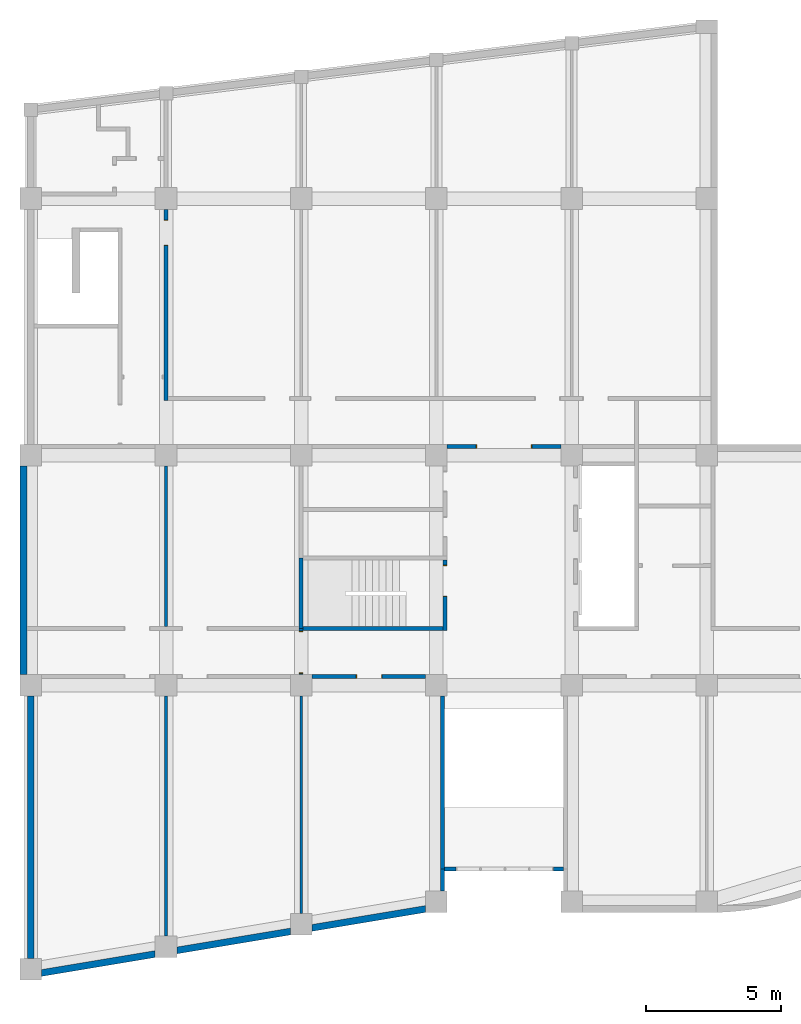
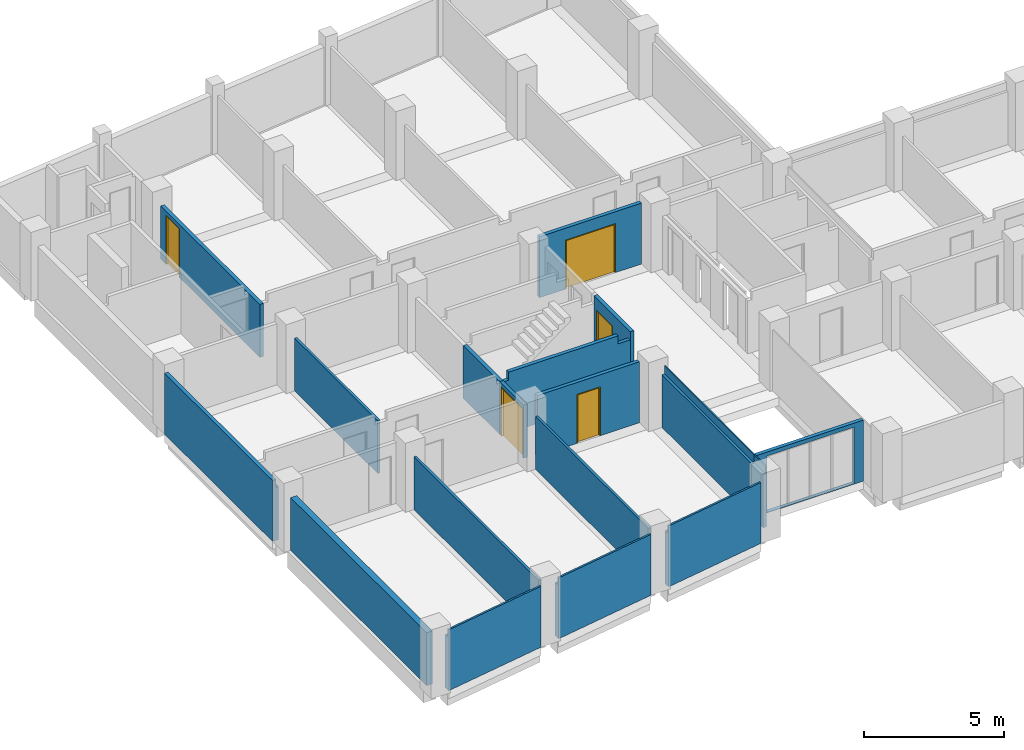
# One storey, part 1 of 7: 18 walls, 5 doors, 6 openings.
"""IFC2X3 building model written with IfcOpenShell, lengths in millimetres."""

from ifc_helpers import new_model, entity, si_unit, converted_unit, derived_unit, money_unit, direction, frame, origin_with_axes, place, context, subcontext, project, spatial, open_shell, faceted_brep, surface_model, source, transform, mapped, material, type_object, element, fill, save


model = new_model("IFC2X3")

# Units and contexts
model_context = context("Model", 3, precision=0.01, world=origin_with_axes(), true_north=direction((0.0, 1.0)))
body_context = subcontext(model_context, "Body", "Model", "MODEL_VIEW")
ifc_project = project(units=[si_unit("LENGTHUNIT", "METRE", prefix="MILLI"), si_unit("AREAUNIT", "SQUARE_METRE"), si_unit("VOLUMEUNIT", "CUBIC_METRE"), converted_unit("PLANEANGLEUNIT", "DEGREE", entity("IfcPlaneAngleMeasure", 0.0174532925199), si_unit("PLANEANGLEUNIT", "RADIAN"), dimensions=[0, 0, 0, 0, 0, 0, 0]), si_unit("SOLIDANGLEUNIT", "STERADIAN"), money_unit("JPY"), converted_unit("TIMEUNIT", "Year", entity("IfcTimeMeasure", 31556926.0), si_unit("TIMEUNIT", "SECOND"), dimensions=[0, 0, 1, 0, 0, 0, 0]), si_unit("MASSUNIT", "GRAM", prefix="KILO"), si_unit("THERMODYNAMICTEMPERATUREUNIT", "DEGREE_CELSIUS"), si_unit("LUMINOUSINTENSITYUNIT", "LUMEN"), si_unit("ENERGYUNIT", "JOULE", prefix="MEGA"), derived_unit("THERMALCONDUCTANCEUNIT", [(si_unit("POWERUNIT", "WATT"), 1), (si_unit("LENGTHUNIT", "METRE"), -1), (si_unit("THERMODYNAMICTEMPERATUREUNIT", "KELVIN"), -1)]), derived_unit("SPECIFICHEATCAPACITYUNIT", [(si_unit("ENERGYUNIT", "JOULE"), 1), (si_unit("MASSUNIT", "GRAM", prefix="KILO"), -1), (si_unit("THERMODYNAMICTEMPERATUREUNIT", "KELVIN"), -1)]), derived_unit("MASSDENSITYUNIT", [(si_unit("MASSUNIT", "GRAM", prefix="KILO"), 1), (si_unit("VOLUMEUNIT", "CUBIC_METRE"), -1)])], contexts=[model_context])

# Site, building, storey
site_placement = place(None, origin_with_axes())
site = spatial("IfcSite", under=ifc_project, at=site_placement, Name="サイト", CompositionType="ELEMENT")
building_placement = place(site_placement, origin_with_axes())
building = spatial("IfcBuilding", under=site, at=building_placement, Name="建築", CompositionType="ELEMENT")
storey_placement = place(building_placement, frame((0.0, 0.0, 3000.0), z_axis=(0.0, 0.0, 1.0), x_axis=(1.0, 0.0, 0.0)))
storey = spatial("IfcBuildingStorey", under=building, at=storey_placement, Name="2FL", CompositionType="ELEMENT", Elevation=3000.0)

# Wall
ifc_material_1 = material(Name="コンクリート")
wall_type_1 = type_object("IfcWallType", Name="コンクリート 150", PredefinedType="NOTDEFINED")
wall_1_placement = place(storey_placement, frame((15224.9999475, 324.999998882, 0.0), z_axis=(0.0, 0.0, 1.0), x_axis=(0.0, -1.0, 0.0)))
element("IfcWall", 1, at=wall_1_placement, inside=storey, type_object=wall_type_1, material=ifc_material_1, Name="W4", context=body_context, shape_type="Brep", body=[
    faceted_brep([(7124.99999888, 75.0, 0.0), (724.999998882, 75.0, 0.0), (724.999998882, 75.0, 2650.0), (7124.99999888, 75.0, 2650.0), (7124.99999888, -75.0, 0.0), (724.999998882, -75.0, 0.0), (724.999998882, 25.0000524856, 2300.0), (724.999998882, 25.0000524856, 2650.0), (724.999998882, -75.0, 2300.0), (7124.99999888, 25.0000524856, 2650.0), (7124.99999888, 25.0000524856, 2300.0), (7124.99999888, -75.0, 2300.0)], [[[0, 1, 2, 3]], [[4, 5, 1, 0]], [[6, 7, 2, 1, 5, 8]], [[3, 2, 7, 9]], [[3, 9, 10, 11, 4, 0]], [[11, 8, 5, 4]], [[9, 7, 6, 10]], [[10, 6, 8, 11]]]),
])

# Wall, opening, door
wall_2_placement = place(storey_placement, frame((15324.9999955, 2100.0, 0.0), z_axis=(0.0, 0.0, 1.0), x_axis=(0.0, 1.0, 0.0)))
wall_2 = element("IfcWall", 2, at=wall_2_placement, inside=storey, type_object=wall_type_1, material=ifc_material_1, Name="W4", context=body_context, shape_type="Brep", body=[
    faceted_brep([(1180.0, -75.0, 0.0), (1180.0, -75.0, 2130.0), (2340.0, -75.0, 2130.0), (2340.0, -75.0, 0.0), (2525.0, -75.0, 0.0), (2525.0, -75.0, 2650.0), (-75.0, -75.0, 2650.0), (-75.0, -75.0, 0.0), (1180.0, 75.0, 0.0), (1180.0, 75.0, 2130.0), (2340.0, 75.0, 2130.0), (2340.0, 75.0, 0.0), (2525.0, 75.0, 0.0), (2525.0, 75.0, 2650.0), (-75.0, 75.0, 2650.0), (-75.0, 75.0, 0.0)], [[[0, 1, 2, 3, 4, 5, 6, 7]], [[1, 0, 8, 9]], [[2, 1, 9, 10]], [[3, 2, 10, 11]], [[3, 11, 12, 4]], [[12, 13, 5, 4]], [[14, 6, 5, 13]], [[7, 6, 14, 15]], [[8, 0, 7, 15]], [[9, 8, 15, 14, 13, 12, 11, 10]]]),
])
opening_1_placement = place(wall_2_placement, frame((1760.0, 0.0, 0.0), z_axis=(0.0, 0.0, 1.0), x_axis=(1.0, 0.0, 0.0)))
opening_1 = element("IfcOpeningElement", 3, at=opening_1_placement, cuts=wall_2, Name="FSD2", context=body_context, shape_type="Brep", body=[
    faceted_brep([(-580.0, -160.0, 0.0), (-580.0, -160.0, 2130.0), (-580.0, 160.0, 2130.0), (-580.0, 160.0, 0.0), (580.0, -160.0, 0.0), (580.0, -160.0, 2130.0), (580.0, 160.0, 2130.0), (580.0, 160.0, 0.0)], [[[0, 1, 2, 3]], [[0, 4, 5, 1]], [[1, 5, 6, 2]], [[3, 2, 6, 7]], [[4, 0, 3, 7]], [[5, 4, 7, 6]]]),
])
door_style_1 = type_object("IfcDoorStyle", Name="片開き戸", ConstructionType="NOTDEFINED", OperationType="NOTDEFINED", ParameterTakesPrecedence=False, Sizeable=False)
shared_shape_1 = source(origin_with_axes(), body_context, "Body", "SurfaceModel", [
    surface_model("IfcShellBasedSurfaceModel", [(-550.0, -85.0, 0.0), (-550.0, -85.0, 2100.0), (550.0, -85.0, 2100.0), (550.0, -85.0, 0.0)], [open_shell([[[0, 1, 2, 3]]])]),
    surface_model("IfcShellBasedSurfaceModel", [(-580.0, -10.0, 0.0), (-580.0, -10.0, 2130.0), (580.0, -10.0, 2130.0), (580.0, -10.0, 0.0), (550.0, -10.0, 0.0), (550.0, -10.0, 2100.0), (-550.0, -10.0, 2100.0), (-550.0, -10.0, 0.0)], [open_shell([[[0, 1, 2, 3, 4, 5, 6, 7]]])]),
    surface_model("IfcShellBasedSurfaceModel", [(-580.0, -160.0, 0.0), (-580.0, -160.0, 2130.0), (580.0, -160.0, 2130.0), (580.0, -160.0, 0.0), (550.0, -160.0, 0.0), (550.0, -160.0, 2100.0), (-550.0, -160.0, 2100.0), (-550.0, -160.0, 0.0)], [open_shell([[[0, 1, 2, 3, 4, 5, 6, 7]]])]),
    surface_model("IfcShellBasedSurfaceModel", [(-550.0, -10.0, 0.0), (-550.0, -10.0, 2100.0), (-550.0, -160.0, 2100.0), (-550.0, -160.0, 0.0), (550.0, -10.0, 2100.0), (550.0, -160.0, 2100.0), (-580.0, -10.0, 0.0), (-580.0, -160.0, 0.0), (550.0, -10.0, 0.0), (550.0, -160.0, 0.0), (-580.0, -10.0, 2130.0), (-580.0, -160.0, 2130.0), (580.0, -10.0, 0.0), (580.0, -160.0, 0.0), (580.0, -10.0, 2130.0), (580.0, -160.0, 2130.0)], [open_shell([[[0, 1, 2, 3]], [[1, 4, 5, 2]], [[6, 0, 3, 7]], [[4, 8, 9, 5]], [[10, 6, 7, 11]], [[8, 12, 13, 9]], [[14, 10, 11, 15]], [[12, 14, 15, 13]]])]),
])
door_1_placement = place(opening_1_placement, frame((-550.0, 0.0, 0.0), z_axis=(0.0, 0.0, 1.0), x_axis=(1.0, 0.0, 0.0)))
door_1 = element("IfcDoor", 4, at=door_1_placement, inside=storey, type_object=door_style_1, Name="FSD2", OverallHeight=2165.0, OverallWidth=1230.0, context=body_context, shape_type="MappedRepresentation", body=[
    mapped(shared_shape_1, transform((550.0, 85.0, 0.0))),
])
fill(opening_1, door_1)

# Walls
wall_3_placement = place(storey_placement, frame((10000.0, 4700.0, 0.0), z_axis=(0.0, 0.0, 1.0), x_axis=(0.0, -1.0, 0.0)))
element("IfcWall", 5, at=wall_3_placement, inside=storey, type_object=wall_type_1, material=ifc_material_1, Name="W2", context=body_context, shape_type="Brep", body=[
    faceted_brep([(0.0, -75.0, 0.0), (0.0, -75.0, 2300.0), (0.0, 75.0, 2300.0), (0.0, 75.0, 0.0), (2600.0, -75.0, 0.0), (2600.0, -75.0, 2300.0), (2600.0, 75.0, 2300.0), (2600.0, 75.0, 0.0)], [[[0, 1, 2, 3]], [[4, 5, 1, 0]], [[5, 6, 2, 1]], [[3, 2, 6, 7]], [[3, 7, 4, 0]], [[7, 6, 5, 4]]]),
])
wall_4_placement = place(storey_placement, frame((15224.9999475, -6800.0, 0.0), z_axis=(0.0, 0.0, 1.0), x_axis=(0.0, -1.0, 0.0)))
element("IfcWall", 6, at=wall_4_placement, inside=storey, type_object=wall_type_1, material=ifc_material_1, Name="W4", context=body_context, shape_type="Brep", body=[
    faceted_brep([(0.0, 25.0000524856, 2650.0), (800.0, 25.0000524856, 2650.0), (800.0, 75.0, 2650.0), (0.0, 75.0, 2650.0), (0.0, 25.0000524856, 2300.0), (800.0, 25.0000524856, 2300.0), (800.0, -75.0, 0.0), (800.0, 75.0, 0.0), (800.0, -75.0, 2300.0), (0.0, 75.0, 0.0), (0.0, -75.0, 0.0), (0.0, -75.0, 2300.0)], [[[0, 1, 2, 3]], [[4, 5, 1, 0]], [[6, 7, 2, 1, 5, 8]], [[3, 2, 7, 9]], [[9, 10, 11, 4, 0, 3]], [[11, 8, 5, 4]], [[9, 7, 6, 10]], [[10, 6, 8, 11]]]),
])

# Wall, opening, door
wall_5_placement = place(storey_placement, frame((10000.0, 324.999998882, 0.0), z_axis=(0.0, 0.0, 1.0), x_axis=(1.0, 0.0, 0.0)))
wall_5 = element("IfcWall", 7, at=wall_5_placement, inside=storey, type_object=wall_type_1, material=ifc_material_1, Name="W4", context=body_context, shape_type="Brep", body=[
    faceted_brep([(2035.0, 75.0000011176, 2130.0), (2035.0, 75.0000011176, 0.0), (400.0, 75.0000011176, 0.0), (400.0, 75.0000011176, 2650.0), (4600.0, 75.0000011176, 2650.0), (4600.0, 75.0000011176, 0.0), (2995.0, 75.0000011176, 0.0), (2995.0, 75.0000011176, 2130.0), (2035.0, -74.9999988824, 2130.0), (2035.0, -75.0, 0.0), (400.0, -75.0, 0.0), (400.0, -74.9999988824, 2650.0), (4600.0, -74.9999988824, 2650.0), (4600.0, -75.0, 0.0), (2995.0, -75.0, 0.0), (2995.0, -74.9999988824, 2130.0)], [[[0, 1, 2, 3, 4, 5, 6, 7]], [[1, 0, 8, 9]], [[1, 9, 10, 2]], [[11, 3, 2, 10]], [[3, 11, 12, 4]], [[5, 4, 12, 13]], [[14, 6, 5, 13]], [[7, 6, 14, 15]], [[0, 7, 15, 8]], [[15, 14, 13, 12, 11, 10, 9, 8]]]),
])
opening_2_placement = place(wall_5_placement, frame((2515.0, 0.0, 0.0), z_axis=(0.0, 0.0, 1.0), x_axis=(1.0, 0.0, 0.0)))
opening_2 = element("IfcOpeningElement", 8, at=opening_2_placement, cuts=wall_5, Name="SD4", context=body_context, shape_type="Brep", body=[
    faceted_brep([(480.0, 160.0, 0.0), (480.0, 160.0, 2130.0), (480.0, -160.0, 2130.0), (480.0, -160.0, 0.0), (-480.0, 160.0, 0.0), (-480.0, 160.0, 2130.0), (-480.0, -160.0, 2130.0), (-480.0, -160.0, 0.0)], [[[0, 1, 2, 3]], [[0, 4, 5, 1]], [[1, 5, 6, 2]], [[3, 2, 6, 7]], [[4, 0, 3, 7]], [[5, 4, 7, 6]]]),
])
shared_shape_2 = source(origin_with_axes(), body_context, "Body", "SurfaceModel", [
    surface_model("IfcShellBasedSurfaceModel", [(-450.0, -85.0, 0.0), (-450.0, -85.0, 2100.0), (450.0, -85.0, 2100.0), (450.0, -85.0, 0.0)], [open_shell([[[0, 1, 2, 3]]])]),
    surface_model("IfcShellBasedSurfaceModel", [(-480.0, -10.0, 0.0), (-480.0, -10.0, 2130.0), (480.0, -10.0, 2130.0), (480.0, -10.0, 0.0), (450.0, -10.0, 0.0), (450.0, -10.0, 2100.0), (-450.0, -10.0, 2100.0), (-450.0, -10.0, 0.0)], [open_shell([[[0, 1, 2, 3, 4, 5, 6, 7]]])]),
    surface_model("IfcShellBasedSurfaceModel", [(-480.0, -160.0, 0.0), (-480.0, -160.0, 2130.0), (480.0, -160.0, 2130.0), (480.0, -160.0, 0.0), (450.0, -160.0, 0.0), (450.0, -160.0, 2100.0), (-450.0, -160.0, 2100.0), (-450.0, -160.0, 0.0)], [open_shell([[[0, 1, 2, 3, 4, 5, 6, 7]]])]),
    surface_model("IfcShellBasedSurfaceModel", [(-450.0, -10.0, 0.0), (-450.0, -10.0, 2100.0), (-450.0, -160.0, 2100.0), (-450.0, -160.0, 0.0), (450.0, -10.0, 2100.0), (450.0, -160.0, 2100.0), (-480.0, -10.0, 0.0), (-480.0, -160.0, 0.0), (450.0, -10.0, 0.0), (450.0, -160.0, 0.0), (-480.0, -10.0, 2130.0), (-480.0, -160.0, 2130.0), (480.0, -10.0, 0.0), (480.0, -160.0, 0.0), (480.0, -10.0, 2130.0), (480.0, -160.0, 2130.0)], [open_shell([[[0, 1, 2, 3]], [[1, 4, 5, 2]], [[6, 0, 3, 7]], [[4, 8, 9, 5]], [[10, 6, 7, 11]], [[8, 12, 13, 9]], [[14, 10, 11, 15]], [[12, 14, 15, 13]]])]),
])
door_2_placement = place(opening_2_placement, frame((450.0, 0.0, 0.0), z_axis=(0.0, 0.0, 1.0), x_axis=(-1.0, 0.0, 0.0)))
door_2 = element("IfcDoor", 9, at=door_2_placement, inside=storey, type_object=door_style_1, Name="SD4", OverallHeight=2165.0, OverallWidth=1030.0, context=body_context, shape_type="MappedRepresentation", body=[
    mapped(shared_shape_2, transform((450.0, 85.0, 0.0))),
])
fill(opening_2, door_2)

wall_6_placement = place(storey_placement, frame((5000.0, 18000.0, 0.0), z_axis=(0.0, 0.0, 1.0), x_axis=(0.0, -1.0, 0.0)))
wall_6 = element("IfcWall", 10, at=wall_6_placement, inside=storey, type_object=wall_type_1, material=ifc_material_1, Name="W2", context=body_context, shape_type="Brep", body=[
    faceted_brep([(1745.00003534, 75.0, 0.0), (1745.00003534, 75.0, 2130.0), (785.00003534, 75.0, 2130.0), (785.00003534, 75.0, 0.0), (400.0, 75.0, 0.0), (400.0, 75.0, 2300.0), (7475.0, 75.0, 2300.0), (7475.0, 75.0, 0.0), (1745.00003534, -75.0, 0.0), (1745.00003534, -75.0, 2130.0), (785.00003534, -75.0, 2130.0), (785.00003534, -75.0, 0.0), (400.0, -75.0, 0.0), (400.0, -75.0, 2300.0), (7475.0, -75.0, 2300.0), (7475.0, -75.0, 0.0)], [[[0, 1, 2, 3, 4, 5, 6, 7]], [[1, 0, 8, 9]], [[2, 1, 9, 10]], [[3, 2, 10, 11]], [[3, 11, 12, 4]], [[13, 5, 4, 12]], [[5, 13, 14, 6]], [[7, 6, 14, 15]], [[8, 0, 7, 15]], [[9, 8, 15, 14, 13, 12, 11, 10]]]),
])
opening_3_placement = place(wall_6_placement, frame((1265.00003534, 0.0, 0.0), z_axis=(0.0, 0.0, 1.0), x_axis=(1.0, 0.0, 0.0)))
opening_3 = element("IfcOpeningElement", 11, at=opening_3_placement, cuts=wall_6, Name="SD3", context=body_context, shape_type="Brep", body=[
    faceted_brep([(480.0, 160.0, 0.0), (480.0, 160.0, 2130.0), (480.0, -160.0, 2130.0), (480.0, -160.0, 0.0), (-480.0, 160.0, 0.0), (-480.0, 160.0, 2130.0), (-480.0, -160.0, 2130.0), (-480.0, -160.0, 0.0)], [[[0, 1, 2, 3]], [[0, 4, 5, 1]], [[1, 5, 6, 2]], [[3, 2, 6, 7]], [[4, 0, 3, 7]], [[5, 4, 7, 6]]]),
])
shared_shape_3 = source(origin_with_axes(), body_context, "Body", "SurfaceModel", [
    surface_model("IfcShellBasedSurfaceModel", [(-450.0, 85.0, 0.0), (-450.0, 85.0, 2100.0), (450.0, 85.0, 2100.0), (450.0, 85.0, 0.0)], [open_shell([[[0, 1, 2, 3]]])]),
    surface_model("IfcShellBasedSurfaceModel", [(-480.0, 160.0, 0.0), (-480.0, 160.0, 2130.0), (480.0, 160.0, 2130.0), (480.0, 160.0, 0.0), (450.0, 160.0, 0.0), (450.0, 160.0, 2100.0), (-450.0, 160.0, 2100.0), (-450.0, 160.0, 0.0)], [open_shell([[[0, 1, 2, 3, 4, 5, 6, 7]]])]),
    surface_model("IfcShellBasedSurfaceModel", [(-480.0, 10.0, 0.0), (-480.0, 10.0, 2130.0), (480.0, 10.0, 2130.0), (480.0, 10.0, 0.0), (450.0, 10.0, 0.0), (450.0, 10.0, 2100.0), (-450.0, 10.0, 2100.0), (-450.0, 10.0, 0.0)], [open_shell([[[0, 1, 2, 3, 4, 5, 6, 7]]])]),
    surface_model("IfcShellBasedSurfaceModel", [(-450.0, 160.0, 0.0), (-450.0, 160.0, 2100.0), (-450.0, 10.0, 2100.0), (-450.0, 10.0, 0.0), (450.0, 160.0, 2100.0), (450.0, 10.0, 2100.0), (-480.0, 160.0, 0.0), (-480.0, 10.0, 0.0), (450.0, 160.0, 0.0), (450.0, 10.0, 0.0), (-480.0, 160.0, 2130.0), (-480.0, 10.0, 2130.0), (480.0, 160.0, 0.0), (480.0, 10.0, 0.0), (480.0, 160.0, 2130.0), (480.0, 10.0, 2130.0)], [open_shell([[[0, 1, 2, 3]], [[1, 4, 5, 2]], [[6, 0, 3, 7]], [[4, 8, 9, 5]], [[10, 6, 7, 11]], [[8, 12, 13, 9]], [[14, 10, 11, 15]], [[12, 14, 15, 13]]])]),
])
door_3_placement = place(opening_3_placement, frame((450.0, 0.0, 0.0), z_axis=(0.0, 0.0, 1.0), x_axis=(-1.0, 0.0, 0.0)))
door_3 = element("IfcDoor", 12, at=door_3_placement, inside=storey, type_object=door_style_1, Name="SD3", OverallHeight=2165.0, OverallWidth=1030.0, context=body_context, shape_type="MappedRepresentation", body=[
    mapped(shared_shape_3, transform((450.0, -85.0, 0.0))),
])
fill(opening_3, door_3)

wall_7_placement = place(storey_placement, frame((20000.0, 8825.000045, 0.0), z_axis=(0.0, 0.0, 1.0), x_axis=(-1.0, 0.0, 0.0)))
wall_7 = element("IfcWall", 13, at=wall_7_placement, inside=storey, type_object=wall_type_1, material=ifc_material_1, Name="W7", context=body_context, shape_type="Brep", body=[
    faceted_brep([(3530.0, -74.999955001, 2130.0), (3530.0, -74.999955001, 0.0), (4600.0, -74.999955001, 0.0), (4600.0, -74.999955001, 2650.0), (400.0, -74.999955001, 2650.0), (400.0, -74.999955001, 0.0), (1470.0, -74.999955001, 0.0), (1470.0, -74.999955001, 2130.0), (3530.0, 75.0, 2130.0), (3530.0, 75.0, 0.0), (4600.0, 75.0, 0.0), (4600.0, 75.0, 2650.0), (400.0, 75.0, 2650.0), (400.0, 75.0, 0.0), (1470.0, 75.0, 0.0), (1470.0, 75.0, 2130.0)], [[[0, 1, 2, 3, 4, 5, 6, 7]], [[1, 0, 8, 9]], [[1, 9, 10, 2]], [[11, 3, 2, 10]], [[12, 4, 3, 11]], [[5, 4, 12, 13]], [[14, 6, 5, 13]], [[7, 6, 14, 15]], [[0, 7, 15, 8]], [[15, 14, 13, 12, 11, 10, 9, 8]]]),
])
opening_4_placement = place(wall_7_placement, frame((2500.0, 0.0, 0.0), z_axis=(0.0, 0.0, 1.0), x_axis=(1.0, 0.0, 0.0)))
opening_4 = element("IfcOpeningElement", 14, at=opening_4_placement, cuts=wall_7, Name="SD4", context=body_context, shape_type="Brep", body=[
    faceted_brep([(-1030.0, -160.0, 0.0), (-1030.0, -160.0, 2130.0), (-1030.0, 160.0, 2130.0), (-1030.0, 160.0, 0.0), (1030.0, -160.0, 0.0), (1030.0, -160.0, 2130.0), (1030.0, 160.0, 2130.0), (1030.0, 160.0, 0.0)], [[[0, 1, 2, 3]], [[0, 4, 5, 1]], [[1, 5, 6, 2]], [[3, 2, 6, 7]], [[4, 0, 3, 7]], [[5, 4, 7, 6]]]),
])
door_style_2 = type_object("IfcDoorStyle", Name="両開き戸", ConstructionType="NOTDEFINED", OperationType="NOTDEFINED", ParameterTakesPrecedence=False, Sizeable=False)
shared_shape_4 = source(origin_with_axes(), body_context, "Body", "SurfaceModel", [
    surface_model("IfcShellBasedSurfaceModel", [(0.0, -85.0, 0.0), (0.0, -85.0, 2100.0), (1000.0, -85.0, 2100.0), (1000.0, -85.0, 0.0)], [open_shell([[[0, 1, 2, 3]]])]),
    surface_model("IfcShellBasedSurfaceModel", [(0.0, -85.0, 0.0), (-1000.0, -85.0, 0.0), (-1000.0, -85.0, 2100.0), (0.0, -85.0, 2100.0)], [open_shell([[[0, 1, 2, 3]]])]),
    surface_model("IfcShellBasedSurfaceModel", [(-1030.0, -10.0, 0.0), (-1030.0, -10.0, 2130.0), (1030.0, -10.0, 2130.0), (1030.0, -10.0, 0.0), (1000.0, -10.0, 0.0), (1000.0, -10.0, 2100.0), (-1000.0, -10.0, 2100.0), (-1000.0, -10.0, 0.0)], [open_shell([[[0, 1, 2, 3, 4, 5, 6, 7]]])]),
    surface_model("IfcShellBasedSurfaceModel", [(-1030.0, -160.0, 0.0), (-1030.0, -160.0, 2130.0), (1030.0, -160.0, 2130.0), (1030.0, -160.0, 0.0), (1000.0, -160.0, 0.0), (1000.0, -160.0, 2100.0), (-1000.0, -160.0, 2100.0), (-1000.0, -160.0, 0.0)], [open_shell([[[0, 1, 2, 3, 4, 5, 6, 7]]])]),
    surface_model("IfcShellBasedSurfaceModel", [(-1000.0, -10.0, 0.0), (-1000.0, -10.0, 2100.0), (-1000.0, -160.0, 2100.0), (-1000.0, -160.0, 0.0), (1000.0, -10.0, 2100.0), (1000.0, -160.0, 2100.0), (-1030.0, -10.0, 0.0), (-1030.0, -160.0, 0.0), (1000.0, -10.0, 0.0), (1000.0, -160.0, 0.0), (-1030.0, -10.0, 2130.0), (-1030.0, -160.0, 2130.0), (1030.0, -10.0, 0.0), (1030.0, -160.0, 0.0), (1030.0, -10.0, 2130.0), (1030.0, -160.0, 2130.0)], [open_shell([[[0, 1, 2, 3]], [[1, 4, 5, 2]], [[6, 0, 3, 7]], [[4, 8, 9, 5]], [[10, 6, 7, 11]], [[8, 12, 13, 9]], [[14, 10, 11, 15]], [[12, 14, 15, 13]]])]),
])
door_4_placement = place(opening_4_placement, frame((-1000.0, 0.0, 0.0), z_axis=(0.0, 0.0, 1.0), x_axis=(1.0, 0.0, 0.0)))
door_4 = element("IfcDoor", 15, at=door_4_placement, inside=storey, type_object=door_style_2, Name="SD4", OverallHeight=2165.0, OverallWidth=2130.0, context=body_context, shape_type="MappedRepresentation", body=[
    mapped(shared_shape_4, transform((1000.0, 85.0, 0.0))),
])
fill(opening_4, door_4)

# Wall, opening
wall_8_placement = place(storey_placement, frame((19775.0000519, -6800.0, 0.0), z_axis=(0.0, 0.0, 1.0), x_axis=(-1.0, 0.0, 0.0)))
wall_8 = element("IfcWall", 16, at=wall_8_placement, inside=storey, type_object=wall_type_1, material=ifc_material_1, Name="W6", context=body_context, shape_type="Brep", body=[
    faceted_brep([(75.0, 75.0, 0.0), (75.0, 75.0, 2650.0), (4475.0001044, 75.0, 2650.0), (4475.0001044, 75.0, 0.0), (4045.0000522, 75.0, 20.0), (4045.0000522, 75.0, 2480.0), (445.0000522, 75.0, 2480.0), (445.0000522, 75.0, 20.0), (75.0, 0.0, 0.0), (75.0, 0.0, 2650.0), (75.0, -75.0, 2650.0), (4475.0001044, -75.0, 2650.0), (4475.0001044, 0.0, 2650.0), (4475.0001044, 0.0, 0.0), (4475.0001044, -75.0, 0.0), (75.0, -75.0, 0.0), (4045.0000522, -75.0, 20.0), (4045.0000522, -75.0, 2480.0), (445.0000522, -75.0, 2480.0), (445.0000522, -75.0, 20.0)], [[[0, 1, 2, 3], [4, 5, 6, 7]], [[8, 9, 1, 0]], [[10, 11, 12, 2, 1, 9]], [[3, 2, 12, 13]], [[8, 0, 3, 13, 14, 15]], [[16, 17, 5, 4]], [[17, 18, 6, 5]], [[18, 19, 7, 6]], [[19, 16, 4, 7]], [[15, 10, 9, 8]], [[14, 11, 10, 15], [16, 19, 18, 17]], [[13, 12, 11, 14]]]),
])
opening_5_placement = place(wall_8_placement, frame((2245.0000522, 0.0, 50.0), z_axis=(0.0, 0.0, 1.0), x_axis=(1.0, 0.0, 0.0)))
element("IfcOpeningElement", 17, at=opening_5_placement, cuts=wall_8, Name="AW1", context=body_context, shape_type="Brep", body=[
    faceted_brep([(-1800.0, -195.0, -30.0), (-1800.0, -195.0, 2430.0), (-1800.0, 195.0, 2430.0), (-1800.0, 195.0, -30.0), (1800.0, -195.0, -30.0), (1800.0, -195.0, 2430.0), (1800.0, 195.0, 2430.0), (1800.0, 195.0, -30.0)], [[[0, 1, 2, 3]], [[0, 4, 5, 1]], [[1, 5, 6, 2]], [[3, 2, 6, 7]], [[4, 0, 3, 7]], [[5, 4, 7, 6]]]),
])

# Wall, opening, door
wall_9_placement = place(storey_placement, frame((10000.0, 324.999998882, 0.0), z_axis=(0.0, 0.0, 1.0), x_axis=(0.0, 1.0, 0.0)))
wall_9 = element("IfcWall", 18, at=wall_9_placement, inside=storey, type_object=wall_type_1, material=ifc_material_1, Name="W4", context=body_context, shape_type="Brep", body=[
    faceted_brep([(115.000001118, -75.0, 0.0), (115.000001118, -75.0, 2130.0), (1675.00000112, -75.0, 2130.0), (1675.00000112, -75.0, 0.0), (1775.00000112, -75.0, 0.0), (1775.00000112, -75.0, 2300.0), (75.0, -75.0, 2300.0), (75.0, -75.0, 0.0), (115.000001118, 75.0, 0.0), (115.000001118, 75.0, 2130.0), (1675.00000112, 75.0, 2130.0), (1675.00000112, 75.0, 0.0), (1775.00000112, 75.0, 0.0), (1775.00000112, 75.0, 2300.0), (75.0, 75.0, 2300.0), (75.0, 75.0, 0.0)], [[[0, 1, 2, 3, 4, 5, 6, 7]], [[1, 0, 8, 9]], [[2, 1, 9, 10]], [[3, 2, 10, 11]], [[3, 11, 12, 4]], [[12, 13, 5, 4]], [[14, 6, 5, 13]], [[7, 6, 14, 15]], [[8, 0, 7, 15]], [[9, 8, 15, 14, 13, 12, 11, 10]]]),
])
opening_6_placement = place(wall_9_placement, frame((895.000001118, 0.0, 0.0), z_axis=(0.0, 0.0, 1.0), x_axis=(1.0, 0.0, 0.0)))
opening_6 = element("IfcOpeningElement", 19, at=opening_6_placement, cuts=wall_9, Name="SD3", context=body_context, shape_type="Brep", body=[
    faceted_brep([(-780.0, -160.0, 0.0), (-780.0, -160.0, 2130.0), (-780.0, 160.0, 2130.0), (-780.0, 160.0, 0.0), (780.0, -160.0, 0.0), (780.0, -160.0, 2130.0), (780.0, 160.0, 2130.0), (780.0, 160.0, 0.0)], [[[0, 1, 2, 3]], [[0, 4, 5, 1]], [[1, 5, 6, 2]], [[3, 2, 6, 7]], [[4, 0, 3, 7]], [[5, 4, 7, 6]]]),
])
door_style_3 = type_object("IfcDoorStyle", Name="親子開き戸", ConstructionType="NOTDEFINED", OperationType="NOTDEFINED", ParameterTakesPrecedence=False, Sizeable=False)
shared_shape_5 = source(origin_with_axes(), body_context, "Body", "SurfaceModel", [
    surface_model("IfcShellBasedSurfaceModel", [(150.0, -85.0, 0.0), (-750.0, -85.0, 0.0), (-750.0, -85.0, 2100.0), (150.0, -85.0, 2100.0)], [open_shell([[[0, 1, 2, 3]]])]),
    surface_model("IfcShellBasedSurfaceModel", [(150.0, -85.0, 0.0), (150.0, -85.0, 2100.0), (750.0, -85.0, 2100.0), (750.0, -85.0, 0.0)], [open_shell([[[0, 1, 2, 3]]])]),
    surface_model("IfcShellBasedSurfaceModel", [(780.0, -10.0, 0.0), (750.0, -10.0, 0.0), (750.0, -10.0, 2100.0), (-750.0, -10.0, 2100.0), (-750.0, -10.0, 0.0), (-780.0, -10.0, 0.0), (-780.0, -10.0, 2130.0), (780.0, -10.0, 2130.0)], [open_shell([[[0, 1, 2, 3, 4, 5, 6, 7]]])]),
    surface_model("IfcShellBasedSurfaceModel", [(780.0, -160.0, 0.0), (750.0, -160.0, 0.0), (750.0, -160.0, 2100.0), (-750.0, -160.0, 2100.0), (-750.0, -160.0, 0.0), (-780.0, -160.0, 0.0), (-780.0, -160.0, 2130.0), (780.0, -160.0, 2130.0)], [open_shell([[[0, 1, 2, 3, 4, 5, 6, 7]]])]),
    surface_model("IfcShellBasedSurfaceModel", [(750.0, -10.0, 0.0), (750.0, -160.0, 0.0), (750.0, -160.0, 2100.0), (750.0, -10.0, 2100.0), (780.0, -10.0, 0.0), (780.0, -160.0, 0.0), (-750.0, -160.0, 2100.0), (-750.0, -10.0, 2100.0), (780.0, -10.0, 2130.0), (780.0, -160.0, 2130.0), (-750.0, -160.0, 0.0), (-750.0, -10.0, 0.0), (-780.0, -10.0, 2130.0), (-780.0, -160.0, 2130.0), (-780.0, -160.0, 0.0), (-780.0, -10.0, 0.0)], [open_shell([[[0, 1, 2, 3]], [[4, 5, 1, 0]], [[3, 2, 6, 7]], [[8, 9, 5, 4]], [[7, 6, 10, 11]], [[12, 13, 9, 8]], [[11, 10, 14, 15]], [[15, 14, 13, 12]]])]),
])
door_5_placement = place(opening_6_placement, frame((750.0, 0.0, 0.0), z_axis=(0.0, 0.0, 1.0), x_axis=(-1.0, 0.0, 0.0)))
door_5 = element("IfcDoor", 20, at=door_5_placement, inside=storey, type_object=door_style_3, Name="SD3", OverallHeight=2165.0, OverallWidth=1630.0, context=body_context, shape_type="MappedRepresentation", body=[
    mapped(shared_shape_5, transform((750.0, 85.0, 0.0))),
])
fill(opening_6, door_5)

# Walls
wall_10_placement = place(storey_placement, frame((10000.0, 2100.0, 0.0), z_axis=(0.0, 0.0, 1.0), x_axis=(1.0, 0.0, 0.0)))
element("IfcWall", 21, at=wall_10_placement, inside=storey, type_object=wall_type_1, material=ifc_material_1, Name="W3", context=body_context, shape_type="Brep", body=[
    faceted_brep([(75.0, 75.0, 0.0), (75.0, 75.0, 2300.0), (250.0, 75.0, 2300.0), (250.0, 75.0, 2650.0), (3631.20524398, 75.0, 2650.0), (4750.0, 75.0, 2650.0), (4750.0, 75.0, 2300.0), (5250.0, 75.0, 2300.0), (5249.99999555, 75.0, 0.0), (75.0, 0.0, 0.0), (75.0, 0.0, 2300.0), (250.0, -75.0, 2300.0), (75.0, -75.0, 2300.0), (250.0, -75.0, 2650.0), (4750.0, -75.0, 2650.0), (4750.0, -75.0, 2300.0), (5250.0, -75.0, 2300.0), (5249.99999555, -75.0, 0.0), (75.0, -75.0, 0.0)], [[[0, 1, 2, 3, 4, 5, 6, 7, 8]], [[9, 10, 1, 0]], [[11, 2, 1, 10, 12]], [[11, 13, 3, 2]], [[4, 3, 13, 14, 5]], [[15, 6, 5, 14]], [[15, 16, 7, 6]], [[8, 7, 16, 17]], [[8, 17, 18, 9, 0]], [[18, 12, 10, 9]], [[13, 11, 12, 18, 17, 16, 15, 14]]]),
])
wall_type_2 = type_object("IfcWallType", Name="コンクリート 250", PredefinedType="NOTDEFINED")
wall_11_placement = place(storey_placement, frame((0.0, -10706.6091116, 0.0), z_axis=(0.0, 0.0, 1.0), x_axis=(0.0, 1.0, 0.0)))
element("IfcWall", 22, at=wall_11_placement, inside=storey, type_object=wall_type_2, material=ifc_material_1, Name="W1", context=body_context, shape_type="Brep", body=[
    faceted_brep([(606.609111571, -125.0, 0.0), (10306.6091116, -125.0, 0.0), (10306.6091116, -125.0, 2300.0), (606.609111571, -125.0, 2300.0), (606.609111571, 125.0, 0.0), (10306.6091116, 125.0, 0.0), (10306.6091116, 125.0, 2300.0), (606.609111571, 125.0, 2300.0)], [[[0, 1, 2, 3]], [[4, 5, 1, 0]], [[5, 6, 2, 1]], [[3, 2, 6, 7]], [[4, 0, 3, 7]], [[7, 6, 5, 4]]]),
])
wall_12_placement = place(storey_placement, frame((0.0, -10706.6091116, 0.0), z_axis=(0.0, 0.0, 1.0), x_axis=(0.986393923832, 0.164398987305, 0.0)))
element("IfcWall", 23, at=wall_12_placement, inside=storey, type_object=wall_type_2, material=ifc_material_1, Name="W1", context=body_context, shape_type="Brep", body=[
    faceted_brep([(4684.28460656, 125.0, 0.0), (426.350835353, 125.0, 0.0), (426.350835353, 125.0, 2300.0), (4684.28460656, 125.0, 2300.0), (4642.6179395, -125.000002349, 0.0), (384.684168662, -125.000000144, 0.0), (397.817163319, -46.2020322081, 2650.0), (397.817163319, -46.2020322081, 2300.0), (384.684168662, -125.000000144, 2650.0), (4655.75093453, -46.2020322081, 2300.0), (4655.75093453, -46.2020322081, 2650.0), (4642.6179395, -125.000002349, 2650.0)], [[[0, 1, 2, 3]], [[4, 5, 1, 0]], [[6, 7, 2, 1, 5, 8]], [[3, 2, 7, 9]], [[4, 0, 3, 9, 10, 11]], [[11, 8, 5, 4]], [[9, 7, 6, 10]], [[10, 6, 8, 11]]]),
])
wall_13_placement = place(storey_placement, frame((5000.0, -9873.27578094, 0.0), z_axis=(0.0, 0.0, 1.0), x_axis=(0.986393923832, 0.164398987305, 0.0)))
element("IfcWall", 24, at=wall_13_placement, inside=storey, type_object=wall_type_2, material=ifc_material_1, Name="W2", context=body_context, shape_type="Brep", body=[
    faceted_brep([(4684.28460656, 125.0, 0.0), (426.350835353, 125.0, 0.0), (426.350835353, 125.0, 2300.0), (4684.28460656, 125.0, 2300.0), (4642.61793995, -124.999999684, 0.0), (384.684168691, -124.999999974, 0.0), (397.817163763, -46.2020295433, 2650.0), (397.817163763, -46.2020295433, 2300.0), (384.684168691, -124.999999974, 2650.0), (4655.75093497, -46.2020295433, 2300.0), (4655.75093497, -46.2020295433, 2650.0), (4642.61793995, -124.999999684, 2650.0)], [[[0, 1, 2, 3]], [[4, 5, 1, 0]], [[6, 7, 2, 1, 5, 8]], [[3, 2, 7, 9]], [[4, 0, 3, 9, 10, 11]], [[11, 8, 5, 4]], [[9, 7, 6, 10]], [[10, 6, 8, 11]]]),
])
wall_14_placement = place(storey_placement, frame((10000.0, -9039.9424877, 0.0), z_axis=(0.0, 0.0, 1.0), x_axis=(0.986393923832, 0.164398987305, 0.0)))
element("IfcWall", 25, at=wall_14_placement, inside=storey, type_object=wall_type_2, material=ifc_material_1, Name="W3", context=body_context, shape_type="Brep", body=[
    faceted_brep([(4684.28460656, 125.0, 0.0), (426.350835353, 125.0, 0.0), (426.350835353, 125.0, 2300.0), (4684.28460656, 125.0, 2300.0), (4642.61794654, -124.999960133, 0.0), (384.684169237, -124.999996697, 0.0), (397.81717041, -46.2019896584, 2650.0), (397.817170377, -46.2019898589, 2300.0), (384.684169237, -124.999996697, 2650.0), (4655.75094221, -46.2019861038, 2300.0), (4655.75094222, -46.2019860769, 2650.0), (4642.61794654, -124.999960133, 2650.0)], [[[0, 1, 2, 3]], [[4, 5, 1, 0]], [[6, 7, 2, 1, 5, 8]], [[3, 2, 7, 9]], [[4, 0, 3, 9, 10, 11]], [[11, 8, 5, 4]], [[9, 7, 6, 10]], [[10, 6, 8, 11]]]),
])
wall_15_placement = place(storey_placement, frame((-275.00006329, 8825.000045, 0.0), z_axis=(0.0, 0.0, 1.0), x_axis=(0.0, -1.0, 0.0)))
element("IfcWall", 26, at=wall_15_placement, inside=storey, type_object=wall_type_2, material=ifc_material_1, Name="W1", context=body_context, shape_type="Brep", body=[
    faceted_brep([(725.000044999, 25.0000632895, 2300.0), (8425.000045, 25.0000632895, 2300.0), (8425.000045, 125.0, 2300.0), (725.000044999, 125.0, 2300.0), (725.000044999, 25.0000592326, 2650.0), (8425.000045, 25.000063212, 2650.0), (8425.000045, -124.99993671, 0.0), (8425.000045, 125.0, 0.0), (8425.000045, -124.99993671, 2650.0), (725.000044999, 125.0, 0.0), (725.000044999, -124.99993671, 0.0), (725.000044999, -124.99993671, 2650.0)], [[[0, 1, 2, 3]], [[4, 5, 1, 0]], [[6, 7, 2, 1, 5, 8]], [[3, 2, 7, 9]], [[4, 0, 3, 9, 10, 11]], [[11, 8, 5, 4]], [[9, 7, 6, 10]], [[10, 6, 8, 11]]]),
])
ifc_material_2 = material(Name="石膏ボード")
wall_type_3 = type_object("IfcWallType", Name="石膏ボード 100", PredefinedType="NOTDEFINED")
wall_16_placement = place(storey_placement, frame((5000.0, 2100.0, 0.0), z_axis=(0.0, 0.0, 1.0), x_axis=(0.0, 1.0, 0.0)))
element("IfcWall", 27, at=wall_16_placement, inside=storey, type_object=wall_type_3, material=ifc_material_2, Name="W15", context=body_context, shape_type="Brep", body=[
    faceted_brep([(75.0, -50.0, 0.0), (6000.0, -50.0, 0.0), (6000.0, -50.0, 2300.0), (75.0, -50.0, 2300.0), (75.0, 50.0, 0.0), (6000.0, 50.0, 0.0), (6000.0, 50.0, 2300.0), (75.0, 50.0, 2300.0)], [[[0, 1, 2, 3]], [[4, 5, 1, 0]], [[5, 6, 2, 1]], [[3, 2, 6, 7]], [[4, 0, 3, 7]], [[7, 6, 5, 4]]]),
])
wall_17_placement = place(storey_placement, frame((5000.0, 324.999998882, 0.0), z_axis=(0.0, 0.0, 1.0), x_axis=(0.0, -1.0, 0.0)))
element("IfcWall", 28, at=wall_17_placement, inside=storey, type_object=wall_type_3, material=ifc_material_2, Name="W13", context=body_context, shape_type="Brep", body=[
    faceted_brep([(9591.66666555, 50.0, 0.0), (724.999998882, 50.0, 0.0), (724.999998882, 50.0, 2300.0), (9591.66666555, 50.0, 2300.0), (9591.66666555, -50.0, 0.0), (724.999998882, -50.0, 0.0), (724.999998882, -50.0, 2300.0), (9591.66666555, -50.0, 2300.0)], [[[0, 1, 2, 3]], [[4, 5, 1, 0]], [[5, 6, 2, 1]], [[3, 2, 6, 7]], [[4, 0, 3, 7]], [[7, 6, 5, 4]]]),
])
wall_18_placement = place(storey_placement, frame((10000.0, 324.999998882, 0.0), z_axis=(0.0, 0.0, 1.0), x_axis=(0.0, -1.0, 0.0)))
element("IfcWall", 29, at=wall_18_placement, inside=storey, type_object=wall_type_3, material=ifc_material_2, Name="W14", context=body_context, shape_type="Brep", body=[
    faceted_brep([(8758.33333222, 49.9999939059, 0.0), (724.999998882, 49.999999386, 0.0), (724.999998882, 49.999999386, 2300.0), (8758.33333222, 49.9999939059, 2300.0), (8758.33333222, -50.0, 0.0), (724.999998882, -50.0, 0.0), (724.999998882, -50.0, 2300.0), (8758.33333222, -50.0, 2300.0)], [[[0, 1, 2, 3]], [[4, 5, 1, 0]], [[5, 6, 2, 1]], [[3, 2, 6, 7]], [[4, 0, 3, 7]], [[7, 6, 5, 4]]]),
])

save(model, "model.ifc")
